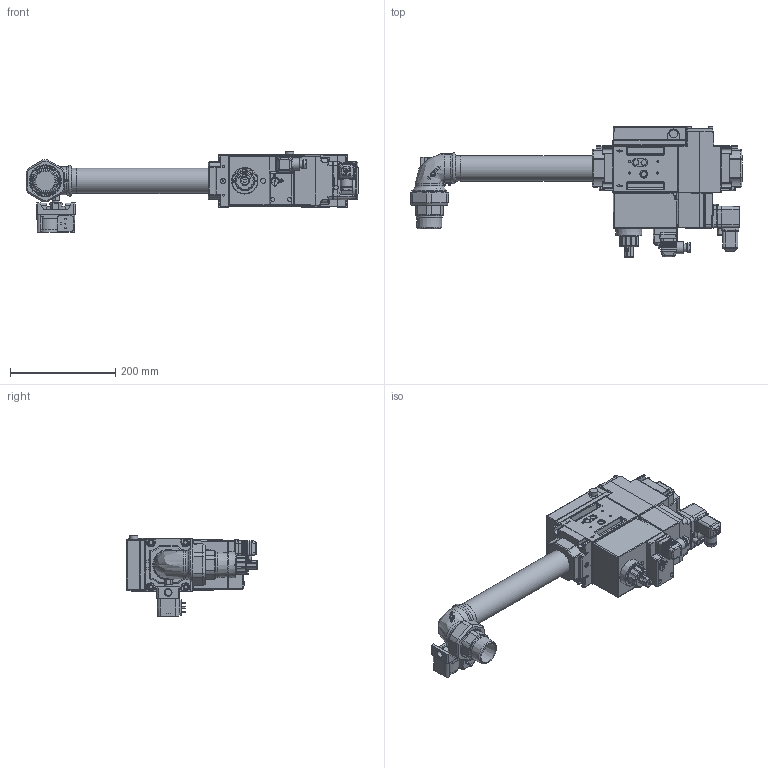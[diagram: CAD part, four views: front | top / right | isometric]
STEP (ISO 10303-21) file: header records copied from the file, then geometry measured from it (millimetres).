
FILE_DESCRIPTION (( 'STEP AP203' ), '1' );
FILE_NAME ('19990713-185198.step', '2025-02-28T10:03:22', ( '' ), ( '' ), 'SwSTEP 2.0', 'SolidWorks 2021', '' );
FILE_SCHEMA (( 'CONFIG_CONTROL_DESIGN' ));
Length unit declared in the file: millimetre
Products named in the file (13): 0005090299-112888; 33720-102931; 23522-04272; 0005040038-03745; 0005090008-102932; 0005180005-102934; 0005090299-112889-AUTO; 19540-112698; 0005150151-100568; 0005180021-178255_GUARNIZIONE OR PRES.TO MULTIB.; 19990713-185198; 23521-133483; 0005040068-101251
Assembly tree (13 placements, depth 3):
  19990713-185198
    19540-112698
    33720-102931
    0005090008-102932  x2
    0005090299-112888
      0005090299-112889-AUTO
      0005040038-03745
      23521-133483
      23522-04272
      0005180021-178255_GUARNIZIONE OR PRES.TO MULTIB.
    0005150151-100568
    0005040068-101251
    0005180005-102934
Bounding box: 630.65 x 248 x 153.75 mm (x, y, z)
Volume: 4654857 mm3; surface area: 530170.6 mm2
Topology: 15 solids, 15 shells, 2692 faces, 6670 edges, 4137 vertices
Faces by surface type: plane 1166, cylinder 744, bspline 503, cone 189, torus 66, sphere 24
Full cylindrical faces by diameter (mm): 0.7 x2, 1.2 x4, 1.5 x2, 1.95 x1, 2 x5, 2.45 x1, 2.5 x7, 3 x1, 3.7 x3, 4 x5, 4.5 x2, 4.8 x1, 6.2 x1, 6.647 x4, 6.75 x2, 6.917 x8, 7 x2, 8 x5, 8.5 x6, 8.57 x1, 8.8 x1, 9 x3, 9.73 x1, 10 x10, 10.6 x1, 10.96 x2, 11 x7, 12.5 x2, 13 x1, 13.16 x1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
Entity records: 133742 total; most frequent: CARTESIAN_POINT 79816, ORIENTED_EDGE 11694, DIRECTION 8713, EDGE_CURVE 5847, VERTEX_POINT 3773, EDGE_LOOP 3014, AXIS2_PLACEMENT_3D 2962, LINE 2789
